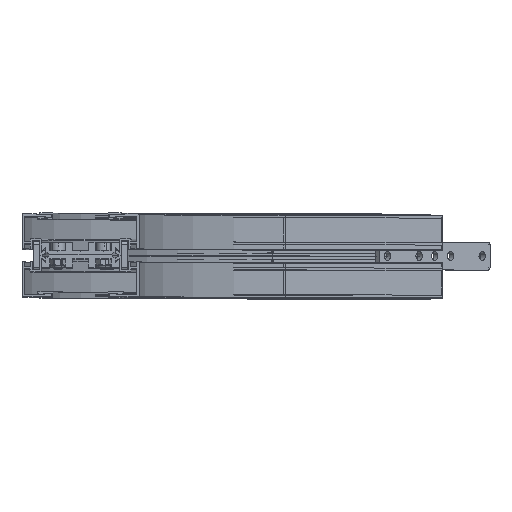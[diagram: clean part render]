
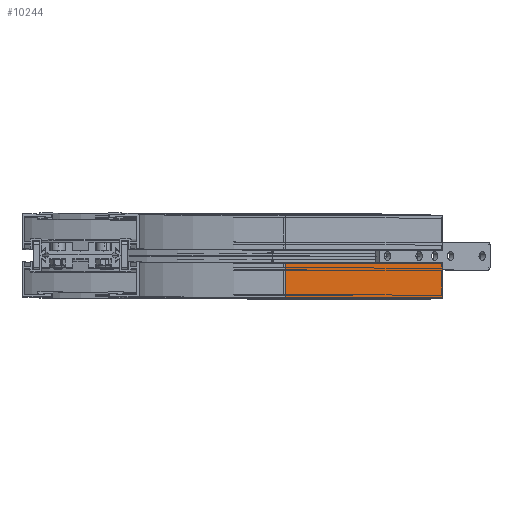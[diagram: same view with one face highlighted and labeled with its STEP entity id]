
A CAD part, top view. The second image highlights one B-rep face of the part: STEP entity #10244.
In plain terms, the highlighted planar face has unit normal (0.707, 0, 0.707) as drawn and (-0.707, 0, 0.707) by its records, which use the part's own axes.
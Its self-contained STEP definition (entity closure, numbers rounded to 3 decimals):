
#1503 = EDGE_CURVE ( 'NONE', #21918, #21909, #8302, .T. ) ;
#5773 = ORIENTED_EDGE ( 'NONE', *, *, #13914, .F. ) ;
#5774 = ORIENTED_EDGE ( 'NONE', *, *, #13915, .F. ) ;
#5775 = ORIENTED_EDGE ( 'NONE', *, *, #13912, .T. ) ;
#6215 = CARTESIAN_POINT ( 'NONE',  ( 516.43, 0., 183.57 ) ) ;
#6224 = CARTESIAN_POINT ( 'NONE',  ( 516.43, 30.65, 183.57 ) ) ;
#7745 = ORIENTED_EDGE ( 'NONE', *, *, #1503, .T. ) ;
#8302 = LINE ( 'NONE', #8303, #8625 ) ;
#8303 = CARTESIAN_POINT ( 'NONE',  ( 516.43, 30.65, 183.57 ) ) ;
#8304 = DIRECTION ( 'NONE',  ( 0., -1., 0. ) ) ;
#8625 = VECTOR ( 'NONE', #8304, 1000. ) ;
#10244 = ADVANCED_FACE ( 'NONE', ( #14731 ), #14732, .F. ) ;
#10593 = VERTEX_POINT ( 'NONE', #15383 ) ;
#10594 = VERTEX_POINT ( 'NONE', #15384 ) ;
#10829 = EDGE_LOOP ( 'NONE', ( #7745, #5773, #5774, #5775 ) ) ;
#13912 = EDGE_CURVE ( 'NONE', #10593, #21918, #16211, .T. ) ;
#13914 = EDGE_CURVE ( 'NONE', #10594, #21909, #16223, .T. ) ;
#13915 = EDGE_CURVE ( 'NONE', #10593, #10594, #16235, .T. ) ;
#14728 = CARTESIAN_POINT ( 'NONE',  ( 657.852, 30.65, 324.991 ) ) ;
#14731 = FACE_OUTER_BOUND ( 'NONE', #10829, .T. ) ;
#14732 = PLANE ( 'NONE',  #18719 ) ;
#14734 = DIRECTION ( 'NONE',  ( 0.707, 0., -0.707 ) ) ;
#14735 = DIRECTION ( 'NONE',  ( -0.707, 0., -0.707 ) ) ;
#15383 = CARTESIAN_POINT ( 'NONE',  ( 657.852, 30.65, 324.991 ) ) ;
#15384 = CARTESIAN_POINT ( 'NONE',  ( 657.852, 0., 324.991 ) ) ;
#16211 = LINE ( 'NONE', #16212, #19163 ) ;
#16212 = CARTESIAN_POINT ( 'NONE',  ( 657.852, 30.65, 324.991 ) ) ;
#16223 = LINE ( 'NONE', #16224, #19166 ) ;
#16224 = CARTESIAN_POINT ( 'NONE',  ( 657.852, 0., 324.991 ) ) ;
#16228 = DIRECTION ( 'NONE',  ( -0.707, 0., -0.707 ) ) ;
#16234 = DIRECTION ( 'NONE',  ( -0.707, 0., -0.707 ) ) ;
#16235 = LINE ( 'NONE', #16236, #19168 ) ;
#16236 = CARTESIAN_POINT ( 'NONE',  ( 657.852, 30.65, 324.991 ) ) ;
#16237 = DIRECTION ( 'NONE',  ( 0., -1., 0. ) ) ;
#18719 = AXIS2_PLACEMENT_3D ( 'NONE', #14728, #14734, #14735 ) ;
#19163 = VECTOR ( 'NONE', #16228, 1000. ) ;
#19166 = VECTOR ( 'NONE', #16234, 1000. ) ;
#19168 = VECTOR ( 'NONE', #16237, 1000. ) ;
#21909 = VERTEX_POINT ( 'NONE', #6215 ) ;
#21918 = VERTEX_POINT ( 'NONE', #6224 ) ;
